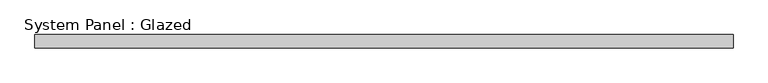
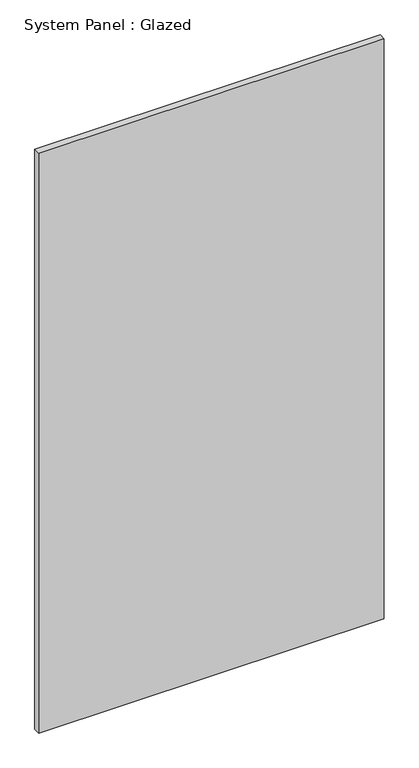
"""IFC4 building model written with IfcOpenShell, lengths in millimetres: plate geometry, System Panel : Glazed."""

from ifc_helpers import new_model, si_unit, origin, origin_with_axes, place, context, project, spatial, polyline, outline, extrude, source, transform, mapped, element, save


def system_panel_glazed_23c5acea(model_context):
    return source(origin(), model_context, "Body", "SweptSolid", [
        extrude(outline(polyline([(662.5000001, 24.5), (-662.5000001, 24.5), (-662.5000001, 49.5), (662.5000001, 49.5), (662.5000001, 24.5)])), origin_with_axes(), (0.0, 0.0, 1.0), 2350.0),
    ])


if __name__ == "__main__":
    model = new_model("IFC4")
    model_context = context("Model", 3, world=origin())
    ifc_project = project(units=[si_unit("LENGTHUNIT", "METRE", prefix="MILLI")], contexts=[model_context])
    site = spatial("IfcSite", under=ifc_project)
    building = spatial("IfcBuilding", under=site)
    placement = place(None, origin())
    system_panel_glazed_shape = system_panel_glazed_23c5acea(model_context)
    element("IfcPlate", 1, ObjectType="System Panel : Glazed", at=placement, inside=building, context=model_context, shape_type="MappedRepresentation", body=[
        mapped(system_panel_glazed_shape, transform((0.0, 0.0, 0.0), x_axis=(1.0, 0.0, 0.0), y_axis=(0.0, 1.0, 0.0), z_axis=(0.0, 0.0, 1.0))),
    ])
    save(model, "model.ifc")
